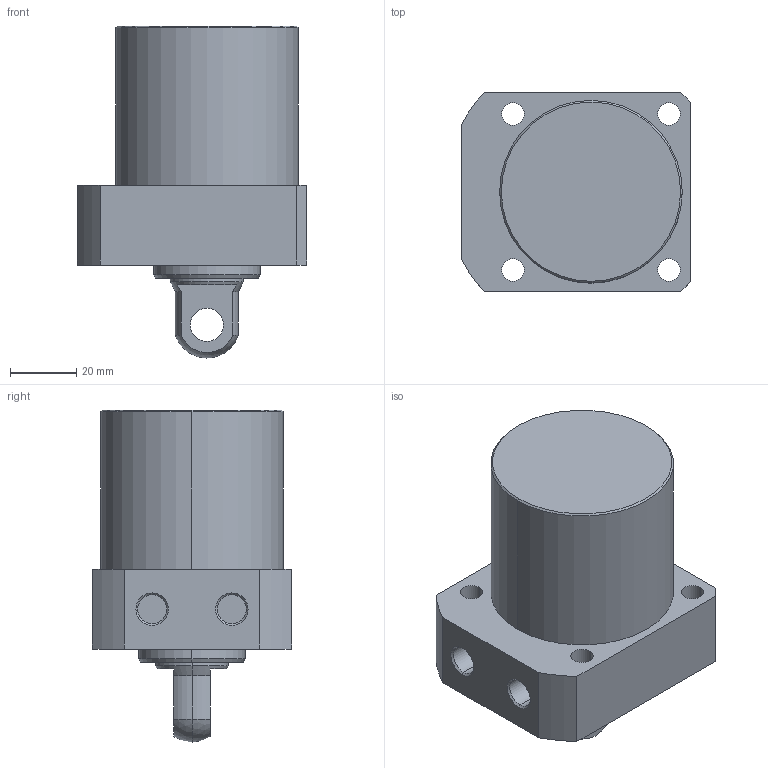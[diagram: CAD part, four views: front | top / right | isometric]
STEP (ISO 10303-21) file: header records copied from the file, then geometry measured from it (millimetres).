
FILE_DESCRIPTION (( 'STEP AP203' ), '1' );
FILE_NAME ('CLLR-055CP-035.STEP', '2019-12-19T08:23:48', ( '' ), ( '' ), 'SwSTEP 2.0', 'SolidWorks 2015', '' );
FILE_SCHEMA (( 'CONFIG_CONTROL_DESIGN' ));
Length unit declared in the file: millimetre
Products named in the file (1): CLLR-055CP-035
Bounding box: 69 x 60 x 100 mm (x, y, z)
Volume: 213289.1 mm3; surface area: 26571.7 mm2
Topology: 1 solids, 1 shells, 59 faces, 139 edges, 89 vertices
Faces by surface type: cylinder 29, plane 18, cone 10, sphere 2
Entity records: 1820 total; most frequent: DIRECTION 329, CARTESIAN_POINT 300, ORIENTED_EDGE 278, EDGE_CURVE 139, AXIS2_PLACEMENT_3D 134, VERTEX_POINT 89, EDGE_LOOP 76, CIRCLE 74
